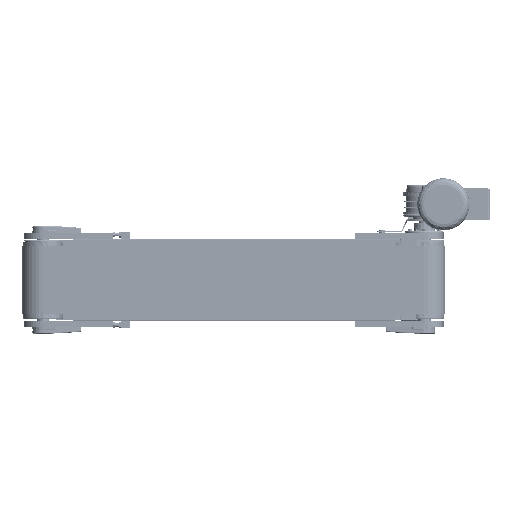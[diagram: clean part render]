
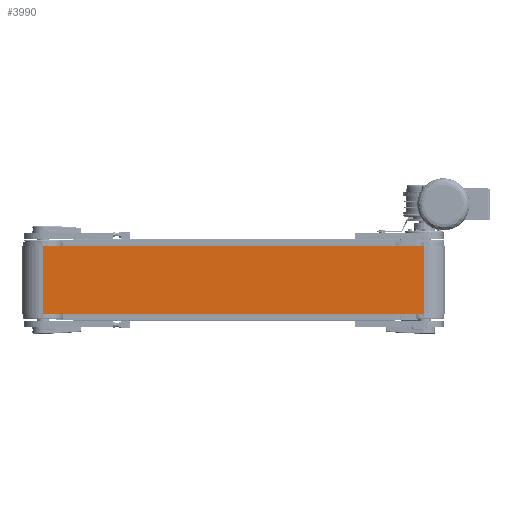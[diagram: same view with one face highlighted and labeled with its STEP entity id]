
A CAD part, front view. The second image highlights one B-rep face of the part: STEP entity #3990.
In plain terms, the highlighted planar face has unit normal (0, -1, 0).
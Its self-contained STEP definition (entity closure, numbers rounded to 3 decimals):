
#2980 = VECTOR ( 'NONE', #41975, 1000. ) ;
#3326 = CARTESIAN_POINT ( 'NONE',  ( 450., -49.5, 80. ) ) ;
#3990 = ADVANCED_FACE ( 'NONE', ( #15137 ), #55572, .F. ) ;
#4160 = DIRECTION ( 'NONE',  ( 1., 0., 0. ) ) ;
#4999 = CARTESIAN_POINT ( 'NONE',  ( 450., -49.5, -80. ) ) ;
#6553 = CARTESIAN_POINT ( 'NONE',  ( -450., -49.5, 80. ) ) ;
#11115 = AXIS2_PLACEMENT_3D ( 'NONE', #6553, #26406, #119209 ) ;
#13426 = CARTESIAN_POINT ( 'NONE',  ( -450., -49.5, -80. ) ) ;
#15137 = FACE_OUTER_BOUND ( 'NONE', #94464, .T. ) ;
#16108 = ORIENTED_EDGE ( 'NONE', *, *, #103130, .T. ) ;
#26366 = CARTESIAN_POINT ( 'NONE',  ( 450., -49.5, 80. ) ) ;
#26406 = DIRECTION ( 'NONE',  ( 0., 1., 0. ) ) ;
#41747 = VERTEX_POINT ( 'NONE', #75294 ) ;
#41975 = DIRECTION ( 'NONE',  ( 1., 0., 0. ) ) ;
#42379 = CARTESIAN_POINT ( 'NONE',  ( -450., -49.5, 80. ) ) ;
#54497 = LINE ( 'NONE', #13426, #2980 ) ;
#55572 = PLANE ( 'NONE',  #11115 ) ;
#56771 = ORIENTED_EDGE ( 'NONE', *, *, #98478, .F. ) ;
#60677 = EDGE_CURVE ( 'NONE', #102324, #100850, #115968, .T. ) ;
#62225 = LINE ( 'NONE', #42379, #89756 ) ;
#65029 = ORIENTED_EDGE ( 'NONE', *, *, #60677, .F. ) ;
#73747 = CARTESIAN_POINT ( 'NONE',  ( -450., -49.5, 80. ) ) ;
#73995 = ORIENTED_EDGE ( 'NONE', *, *, #98482, .T. ) ;
#75294 = CARTESIAN_POINT ( 'NONE',  ( -450., -49.5, -80. ) ) ;
#79966 = VERTEX_POINT ( 'NONE', #80653 ) ;
#80653 = CARTESIAN_POINT ( 'NONE',  ( -450., -49.5, 80. ) ) ;
#82796 = DIRECTION ( 'NONE',  ( 0., 0., -1. ) ) ;
#89756 = VECTOR ( 'NONE', #82796, 1000. ) ;
#94464 = EDGE_LOOP ( 'NONE', ( #73995, #65029, #56771, #16108 ) ) ;
#98478 = EDGE_CURVE ( 'NONE', #79966, #102324, #103601, .T. ) ;
#98482 = EDGE_CURVE ( 'NONE', #41747, #100850, #54497, .T. ) ;
#100850 = VERTEX_POINT ( 'NONE', #4999 ) ;
#102324 = VERTEX_POINT ( 'NONE', #26366 ) ;
#103130 = EDGE_CURVE ( 'NONE', #79966, #41747, #62225, .T. ) ;
#103601 = LINE ( 'NONE', #73747, #108710 ) ;
#108710 = VECTOR ( 'NONE', #4160, 1000. ) ;
#115968 = LINE ( 'NONE', #3326, #121771 ) ;
#119209 = DIRECTION ( 'NONE',  ( 0., 0., 1. ) ) ;
#121771 = VECTOR ( 'NONE', #125252, 1000. ) ;
#125252 = DIRECTION ( 'NONE',  ( 0., 0., -1. ) ) ;
